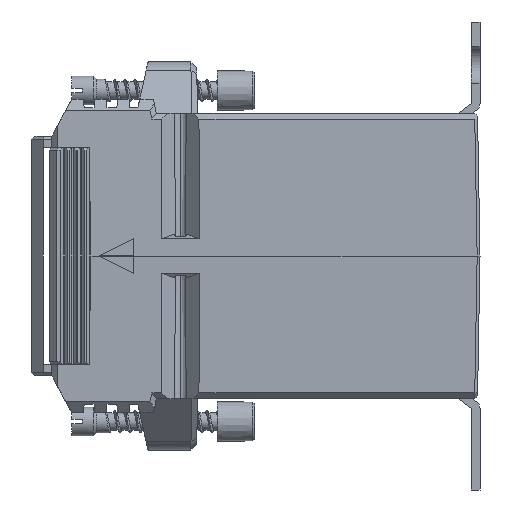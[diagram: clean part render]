
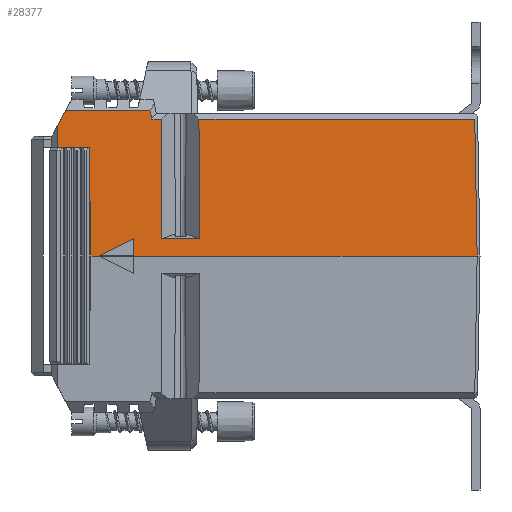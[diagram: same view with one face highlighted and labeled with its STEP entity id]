
A CAD part, left-side view. The second image highlights one B-rep face of the part: STEP entity #28377.
In plain terms, the highlighted planar face has unit normal (-1, 0, 0.018).
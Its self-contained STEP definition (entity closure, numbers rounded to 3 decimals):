
#23905 = VERTEX_POINT ( 'NONE', #27612 ) ;
#23907 = VERTEX_POINT ( 'NONE', #27610 ) ;
#23920 = EDGE_CURVE ( 'NONE', #23905, #23907, #27562, .T. ) ;
#24182 = VERTEX_POINT ( 'NONE', #28305 ) ;
#24186 = VERTEX_POINT ( 'NONE', #28296 ) ;
#24194 = VERTEX_POINT ( 'NONE', #28432 ) ;
#24202 = EDGE_CURVE ( 'NONE', #24186, #24182, #28348, .T. ) ;
#24203 = VERTEX_POINT ( 'NONE', #28360 ) ;
#24321 = EDGE_CURVE ( 'NONE', #24203, #24194, #28802, .T. ) ;
#25743 = EDGE_CURVE ( 'NONE', #23907, #24203, #33079, .T. ) ;
#27415 = EDGE_CURVE ( 'NONE', #27430, #27540, #37980, .T. ) ;
#27430 = VERTEX_POINT ( 'NONE', #38080 ) ;
#27540 = VERTEX_POINT ( 'NONE', #38324 ) ;
#27553 = DIRECTION ( 'NONE',  ( 0., -1., 0. ) ) ;
#27555 = VECTOR ( 'NONE', #27553, 1000. ) ;
#27557 = CARTESIAN_POINT ( 'NONE',  ( -29.668, 43.5, 19. ) ) ;
#27562 = LINE ( 'NONE', #27557, #27555 ) ;
#27610 = CARTESIAN_POINT ( 'NONE',  ( -29.668, 37., 19. ) ) ;
#27612 = CARTESIAN_POINT ( 'NONE',  ( -29.668, 42.5, 19. ) ) ;
#28267 = VERTEX_POINT ( 'NONE', #40034 ) ;
#28272 = VERTEX_POINT ( 'NONE', #40091 ) ;
#28290 = EDGE_CURVE ( 'NONE', #28267, #28272, #40182, .T. ) ;
#28296 = CARTESIAN_POINT ( 'NONE',  ( -30., 29.168, 0. ) ) ;
#28305 = CARTESIAN_POINT ( 'NONE',  ( -30., -31., 0. ) ) ;
#28317 = VERTEX_POINT ( 'NONE', #40257 ) ;
#28318 = VERTEX_POINT ( 'NONE', #40248 ) ;
#28348 = LINE ( 'NONE', #28426, #28424 ) ;
#28360 = CARTESIAN_POINT ( 'NONE',  ( -30., 36.668, 0. ) ) ;
#28377 = ADVANCED_FACE ( 'NONE', ( #40288 ), #40277, .T. ) ;
#28398 = EDGE_LOOP ( 'NONE', ( #28457, #28456, #28476, #28472, #28469, #28495, #28491, #28596, #28592, #28450, #28591, #28597, #28538, #28550, #28573, #28571 ) ) ;
#28405 = EDGE_CURVE ( 'NONE', #28317, #28318, #40426, .T. ) ;
#28423 = DIRECTION ( 'NONE',  ( 0., -1., 0. ) ) ;
#28424 = VECTOR ( 'NONE', #28423, 1000. ) ;
#28426 = CARTESIAN_POINT ( 'NONE',  ( -30., 43.5, 0. ) ) ;
#28432 = CARTESIAN_POINT ( 'NONE',  ( -30., 35.168, 0. ) ) ;
#28446 = EDGE_CURVE ( 'NONE', #24194, #28451, #40508, .T. ) ;
#28450 = ORIENTED_EDGE ( 'NONE', *, *, #24321, .T. ) ;
#28451 = VERTEX_POINT ( 'NONE', #40441 ) ;
#28452 = EDGE_CURVE ( 'NONE', #28451, #24186, #40467, .T. ) ;
#28456 = ORIENTED_EDGE ( 'NONE', *, *, #28458, .T. ) ;
#28457 = ORIENTED_EDGE ( 'NONE', *, *, #28405, .T. ) ;
#28458 = EDGE_CURVE ( 'NONE', #28318, #27430, #40472, .T. ) ;
#28463 = EDGE_CURVE ( 'NONE', #27540, #28478, #40579, .T. ) ;
#28469 = ORIENTED_EDGE ( 'NONE', *, *, #28481, .F. ) ;
#28472 = ORIENTED_EDGE ( 'NONE', *, *, #28463, .T. ) ;
#28476 = ORIENTED_EDGE ( 'NONE', *, *, #27415, .T. ) ;
#28478 = VERTEX_POINT ( 'NONE', #40567 ) ;
#28481 = EDGE_CURVE ( 'NONE', #28267, #28478, #40557, .T. ) ;
#28487 = EDGE_CURVE ( 'NONE', #28272, #23905, #40547, .T. ) ;
#28491 = ORIENTED_EDGE ( 'NONE', *, *, #28487, .T. ) ;
#28495 = ORIENTED_EDGE ( 'NONE', *, *, #28290, .T. ) ;
#28538 = ORIENTED_EDGE ( 'NONE', *, *, #24202, .T. ) ;
#28539 = VERTEX_POINT ( 'NONE', #40683 ) ;
#28550 = ORIENTED_EDGE ( 'NONE', *, *, #28558, .T. ) ;
#28552 = EDGE_CURVE ( 'NONE', #28539, #28565, #40784, .T. ) ;
#28558 = EDGE_CURVE ( 'NONE', #24182, #28539, #40758, .T. ) ;
#28565 = VERTEX_POINT ( 'NONE', #40208 ) ;
#28571 = ORIENTED_EDGE ( 'NONE', *, *, #28575, .T. ) ;
#28573 = ORIENTED_EDGE ( 'NONE', *, *, #28552, .T. ) ;
#28575 = EDGE_CURVE ( 'NONE', #28565, #28317, #37971, .T. ) ;
#28591 = ORIENTED_EDGE ( 'NONE', *, *, #28446, .T. ) ;
#28592 = ORIENTED_EDGE ( 'NONE', *, *, #25743, .T. ) ;
#28596 = ORIENTED_EDGE ( 'NONE', *, *, #23920, .T. ) ;
#28597 = ORIENTED_EDGE ( 'NONE', *, *, #28452, .T. ) ;
#28797 = DIRECTION ( 'NONE',  ( 0., -1., 0. ) ) ;
#28799 = VECTOR ( 'NONE', #28797, 1000. ) ;
#28801 = CARTESIAN_POINT ( 'NONE',  ( -30., 43.5, 0. ) ) ;
#28802 = LINE ( 'NONE', #28801, #28799 ) ;
#33075 = DIRECTION ( 'NONE',  ( -0.017, -0.017, -1. ) ) ;
#33076 = VECTOR ( 'NONE', #33075, 1000. ) ;
#33077 = CARTESIAN_POINT ( 'NONE',  ( -29.998, 36.67, 0.119 ) ) ;
#33079 = LINE ( 'NONE', #33077, #33076 ) ;
#37971 = LINE ( 'NONE', #38013, #39102 ) ;
#37976 = DIRECTION ( 'NONE',  ( 0., 1., 0. ) ) ;
#37977 = VECTOR ( 'NONE', #37976, 1000. ) ;
#37978 = CARTESIAN_POINT ( 'NONE',  ( -29.581, 25.2, 24. ) ) ;
#37980 = LINE ( 'NONE', #37978, #37977 ) ;
#38013 = CARTESIAN_POINT ( 'NONE',  ( -29.998, 17.623, 0.132 ) ) ;
#38080 = CARTESIAN_POINT ( 'NONE',  ( -29.581, 24.254, 24. ) ) ;
#38324 = CARTESIAN_POINT ( 'NONE',  ( -29.581, 26.003, 24. ) ) ;
#39102 = VECTOR ( 'NONE', #39655, 1000. ) ;
#39655 = DIRECTION ( 'NONE',  ( -0.017, -0.005, -1. ) ) ;
#40034 = CARTESIAN_POINT ( 'NONE',  ( -29.555, 41.107, 25.5 ) ) ;
#40091 = CARTESIAN_POINT ( 'NONE',  ( -29.601, 42.5, 22.881 ) ) ;
#40177 = DIRECTION ( 'NONE',  ( -0.015, 0.469, -0.883 ) ) ;
#40178 = VECTOR ( 'NONE', #40177, 1000. ) ;
#40180 = CARTESIAN_POINT ( 'NONE',  ( -29.919, 52.205, 4.627 ) ) ;
#40182 = LINE ( 'NONE', #40180, #40178 ) ;
#40208 = CARTESIAN_POINT ( 'NONE',  ( -29.581, 17.746, 24. ) ) ;
#40248 = CARTESIAN_POINT ( 'NONE',  ( -29.948, 24.362, 3. ) ) ;
#40257 = CARTESIAN_POINT ( 'NONE',  ( -29.948, 17.638, 3. ) ) ;
#40258 = AXIS2_PLACEMENT_3D ( 'NONE', #40286, #40384, #40382 ) ;
#40277 = PLANE ( 'NONE',  #40258 ) ;
#40286 = CARTESIAN_POINT ( 'NONE',  ( -30., 43.5, 0. ) ) ;
#40288 = FACE_OUTER_BOUND ( 'NONE', #28398, .T. ) ;
#40382 = DIRECTION ( 'NONE',  ( 0.017, 0., 1. ) ) ;
#40384 = DIRECTION ( 'NONE',  ( -1., 0., 0.017 ) ) ;
#40421 = DIRECTION ( 'NONE',  ( 0., 1., 0. ) ) ;
#40422 = VECTOR ( 'NONE', #40421, 1000. ) ;
#40423 = CARTESIAN_POINT ( 'NONE',  ( -29.948, 43.5, 3. ) ) ;
#40426 = LINE ( 'NONE', #40423, #40422 ) ;
#40441 = CARTESIAN_POINT ( 'NONE',  ( -29.948, 29.168, 3. ) ) ;
#40463 = DIRECTION ( 'NONE',  ( -0.017, 0., -1. ) ) ;
#40465 = VECTOR ( 'NONE', #40463, 1000. ) ;
#40466 = CARTESIAN_POINT ( 'NONE',  ( -29.948, 29.168, 3. ) ) ;
#40467 = LINE ( 'NONE', #40466, #40465 ) ;
#40472 = LINE ( 'NONE', #40596, #40477 ) ;
#40476 = DIRECTION ( 'NONE',  ( 0.017, -0.005, 1. ) ) ;
#40477 = VECTOR ( 'NONE', #40476, 1000. ) ;
#40480 = DIRECTION ( 'NONE',  ( 0.008, -0.894, 0.447 ) ) ;
#40481 = VECTOR ( 'NONE', #40480, 1000. ) ;
#40508 = LINE ( 'NONE', #40529, #40481 ) ;
#40529 = CARTESIAN_POINT ( 'NONE',  ( -30., 35.168, 0. ) ) ;
#40540 = DIRECTION ( 'NONE',  ( 0., -1., 0. ) ) ;
#40541 = VECTOR ( 'NONE', #40540, 1000. ) ;
#40543 = CARTESIAN_POINT ( 'NONE',  ( -29.555, 60., 25.5 ) ) ;
#40547 = LINE ( 'NONE', #40665, #40660 ) ;
#40557 = LINE ( 'NONE', #40543, #40541 ) ;
#40567 = CARTESIAN_POINT ( 'NONE',  ( -29.555, 26.335, 25.5 ) ) ;
#40573 = DIRECTION ( 'NONE',  ( 0.017, 0.216, 0.976 ) ) ;
#40574 = VECTOR ( 'NONE', #40573, 1000. ) ;
#40577 = CARTESIAN_POINT ( 'NONE',  ( -29.916, 21.751, 4.82 ) ) ;
#40579 = LINE ( 'NONE', #40577, #40574 ) ;
#40596 = CARTESIAN_POINT ( 'NONE',  ( -30.002, 24.378, -0.098 ) ) ;
#40658 = DIRECTION ( 'NONE',  ( -0.017, 0., -1. ) ) ;
#40660 = VECTOR ( 'NONE', #40658, 1000. ) ;
#40665 = CARTESIAN_POINT ( 'NONE',  ( -30., 42.5, 0. ) ) ;
#40683 = CARTESIAN_POINT ( 'NONE',  ( -29.581, -30.581, 24. ) ) ;
#40753 = DIRECTION ( 'NONE',  ( 0.017, 0.017, 1. ) ) ;
#40755 = VECTOR ( 'NONE', #40753, 1000. ) ;
#40756 = CARTESIAN_POINT ( 'NONE',  ( -29.977, -30.977, 1.3 ) ) ;
#40758 = LINE ( 'NONE', #40756, #40755 ) ;
#40763 = VECTOR ( 'NONE', #40782, 1000. ) ;
#40782 = DIRECTION ( 'NONE',  ( 0., 1., 0. ) ) ;
#40783 = CARTESIAN_POINT ( 'NONE',  ( -29.581, 25.2, 24. ) ) ;
#40784 = LINE ( 'NONE', #40783, #40763 ) ;
